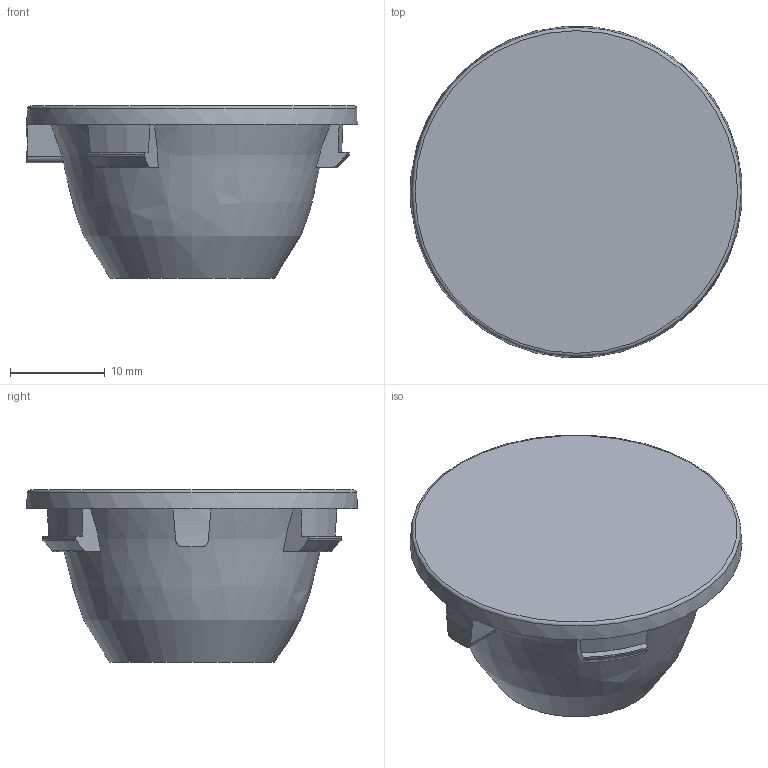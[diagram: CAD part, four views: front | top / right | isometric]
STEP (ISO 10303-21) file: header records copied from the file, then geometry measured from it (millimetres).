
FILE_DESCRIPTION(('STEP AP214'),'1');
FILE_NAME('PLFLORA35WI_MECCANICO.stp','2025-02-07T09:29:35',(' '),(' '),'Spatial InterOp 3D',' ',' ');
FILE_SCHEMA(('AUTOMOTIVE_DESIGN { 1 0 10303 214 1 1 1 1 }'));
Length unit declared in the file: metre
Products named in the file (1): 1738767780
Bounding box: 34.93 x 34.91 x 18.15 mm (x, y, z)
Volume: 10002.9 mm3; surface area: 3104.5 mm2
Topology: 1 solids, 1 shells, 39 faces, 108 edges, 71 vertices
Faces by surface type: plane 18, torus 7, cone 7, cylinder 6, revolution 1
Entity records: 1644 total; most frequent: CARTESIAN_POINT 353, ORIENTED_EDGE 206, DIRECTION 201, EDGE_CURVE 103, AXIS2_PLACEMENT_3D 88, VERTEX_POINT 69, EDGE_LOOP 42, FACE_OUTER_BOUND 41
